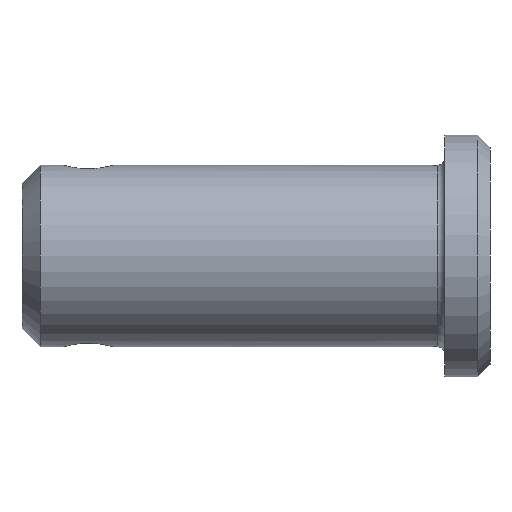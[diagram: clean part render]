
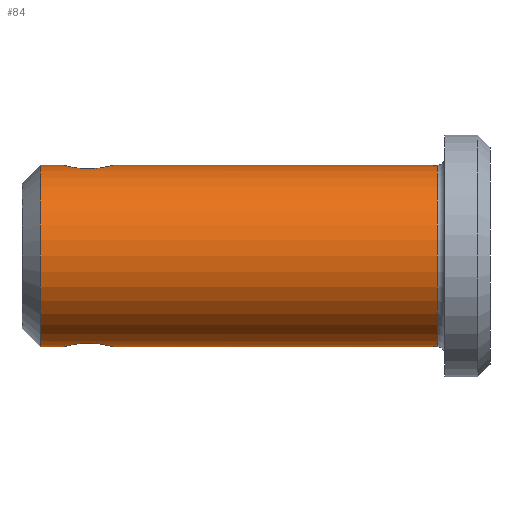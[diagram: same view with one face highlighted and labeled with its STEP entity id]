
A CAD part, front view. The second image highlights one B-rep face of the part: STEP entity #84.
In plain terms, the highlighted cylindrical face has radius 6 mm (diameter 12 mm), a partial arc.
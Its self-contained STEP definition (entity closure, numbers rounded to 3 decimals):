
#4 = VERTEX_POINT ( 'NONE', #257 ) ;
#5 = EDGE_CURVE ( 'NONE', #73, #49, #106, .T. ) ;
#9 = EDGE_CURVE ( 'NONE', #74, #73, #123, .T. ) ;
#15 = VERTEX_POINT ( 'NONE', #197 ) ;
#20 = VERTEX_POINT ( 'NONE', #195 ) ;
#22 = EDGE_CURVE ( 'NONE', #49, #20, #189, .T. ) ;
#26 = EDGE_CURVE ( 'NONE', #4, #46, #231, .T. ) ;
#46 = VERTEX_POINT ( 'NONE', #414 ) ;
#49 = VERTEX_POINT ( 'NONE', #482 ) ;
#53 = EDGE_CURVE ( 'NONE', #55, #74, #287, .T. ) ;
#55 = VERTEX_POINT ( 'NONE', #483 ) ;
#73 = VERTEX_POINT ( 'NONE', #407 ) ;
#74 = VERTEX_POINT ( 'NONE', #449 ) ;
#80 = EDGE_CURVE ( 'NONE', #4, #15, #442, .T. ) ;
#84 = ADVANCED_FACE ( 'NONE', ( #408 ), #404, .T. ) ;
#86 = ORIENTED_EDGE ( 'NONE', *, *, #5, .T. ) ;
#89 = ORIENTED_EDGE ( 'NONE', *, *, #80, .F. ) ;
#90 = ORIENTED_EDGE ( 'NONE', *, *, #9, .T. ) ;
#95 = EDGE_LOOP ( 'NONE', ( #264, #265, #90, #86, #96, #184, #89, #118 ) ) ;
#96 = ORIENTED_EDGE ( 'NONE', *, *, #22, .T. ) ;
#103 = CARTESIAN_POINT ( 'NONE',  ( -22.051, -0.416, 5.986 ) ) ;
#104 = CARTESIAN_POINT ( 'NONE',  ( -22.01, -0.211, 5.997 ) ) ;
#105 = CARTESIAN_POINT ( 'NONE',  ( -22., -0.106, 6. ) ) ;
#106 = B_SPLINE_CURVE_WITH_KNOTS ( 'NONE', 3,
 ( #196, #105, #104, #103, #148, #147, #146, #145, #144, #143, #142, #141, #140, #139, #138, #137, #136, #135, #134, #133, #132, #131, #130, #129, #128, #127, #126, #125 ),
 .UNSPECIFIED., .F., .F.,
 ( 4, 2, 2, 2, 2, 2, 2, 2, 2, 2, 2, 2, 2, 4 ),
 ( 0., 0., 0.001, 0.001, 0.001, 0.002, 0.003, 0.003, 0.003, 0.004, 0.004, 0.004, 0.005, 0.005 ),
 .UNSPECIFIED. ) ;
#118 = ORIENTED_EDGE ( 'NONE', *, *, #26, .T. ) ;
#119 = EDGE_CURVE ( 'NONE', #15, #20, #307, .T. ) ;
#122 = CARTESIAN_POINT ( 'NONE',  ( 0., 0., 6. ) ) ;
#123 = LINE ( 'NONE', #122, #204 ) ;
#125 = CARTESIAN_POINT ( 'NONE',  ( -25.2, 0., 6. ) ) ;
#126 = CARTESIAN_POINT ( 'NONE',  ( -25.2, -0.105, 6. ) ) ;
#127 = CARTESIAN_POINT ( 'NONE',  ( -25.19, -0.211, 5.997 ) ) ;
#128 = CARTESIAN_POINT ( 'NONE',  ( -25.148, -0.417, 5.986 ) ) ;
#129 = CARTESIAN_POINT ( 'NONE',  ( -25.118, -0.517, 5.978 ) ) ;
#130 = CARTESIAN_POINT ( 'NONE',  ( -25.038, -0.71, 5.959 ) ) ;
#131 = CARTESIAN_POINT ( 'NONE',  ( -24.987, -0.804, 5.947 ) ) ;
#132 = CARTESIAN_POINT ( 'NONE',  ( -24.872, -0.977, 5.921 ) ) ;
#133 = CARTESIAN_POINT ( 'NONE',  ( -24.806, -1.057, 5.907 ) ) ;
#134 = CARTESIAN_POINT ( 'NONE',  ( -24.584, -1.279, 5.864 ) ) ;
#135 = CARTESIAN_POINT ( 'NONE',  ( -24.408, -1.397, 5.836 ) ) ;
#136 = CARTESIAN_POINT ( 'NONE',  ( -24.116, -1.518, 5.805 ) ) ;
#137 = CARTESIAN_POINT ( 'NONE',  ( -24.016, -1.548, 5.797 ) ) ;
#138 = CARTESIAN_POINT ( 'NONE',  ( -23.811, -1.59, 5.786 ) ) ;
#139 = CARTESIAN_POINT ( 'NONE',  ( -23.704, -1.6, 5.783 ) ) ;
#140 = CARTESIAN_POINT ( 'NONE',  ( -23.39, -1.6, 5.783 ) ) ;
#141 = CARTESIAN_POINT ( 'NONE',  ( -23.178, -1.557, 5.795 ) ) ;
#142 = CARTESIAN_POINT ( 'NONE',  ( -22.794, -1.398, 5.836 ) ) ;
#143 = CARTESIAN_POINT ( 'NONE',  ( -22.616, -1.279, 5.864 ) ) ;
#144 = CARTESIAN_POINT ( 'NONE',  ( -22.396, -1.058, 5.906 ) ) ;
#145 = CARTESIAN_POINT ( 'NONE',  ( -22.328, -0.977, 5.921 ) ) ;
#146 = CARTESIAN_POINT ( 'NONE',  ( -22.212, -0.803, 5.947 ) ) ;
#147 = CARTESIAN_POINT ( 'NONE',  ( -22.163, -0.711, 5.958 ) ) ;
#148 = CARTESIAN_POINT ( 'NONE',  ( -22.082, -0.518, 5.978 ) ) ;
#167 = CARTESIAN_POINT ( 'NONE',  ( -22., 0., -6. ) ) ;
#168 = CARTESIAN_POINT ( 'NONE',  ( -22., -0.106, -6. ) ) ;
#169 = CARTESIAN_POINT ( 'NONE',  ( -22.01, -0.211, -5.997 ) ) ;
#184 = ORIENTED_EDGE ( 'NONE', *, *, #119, .F. ) ;
#188 = CARTESIAN_POINT ( 'NONE',  ( 0., 0., 6. ) ) ;
#189 = LINE ( 'NONE', #188, #206 ) ;
#193 = DIRECTION ( 'NONE',  ( -1., 0., 0. ) ) ;
#195 = CARTESIAN_POINT ( 'NONE',  ( -26.8, 0., 6. ) ) ;
#196 = CARTESIAN_POINT ( 'NONE',  ( -22., 0., 6. ) ) ;
#197 = CARTESIAN_POINT ( 'NONE',  ( -26.8, 0., -6. ) ) ;
#203 = DIRECTION ( 'NONE',  ( -1., 0., 0. ) ) ;
#204 = VECTOR ( 'NONE', #203, 1000. ) ;
#206 = VECTOR ( 'NONE', #193, 1000. ) ;
#211 = CARTESIAN_POINT ( 'NONE',  ( -25.158, -0.421, -5.988 ) ) ;
#212 = CARTESIAN_POINT ( 'NONE',  ( -25.2, -0.209, -6. ) ) ;
#213 = CARTESIAN_POINT ( 'NONE',  ( -25.2, 0., -6. ) ) ;
#224 = CARTESIAN_POINT ( 'NONE',  ( -24.576, -1.272, -5.864 ) ) ;
#225 = CARTESIAN_POINT ( 'NONE',  ( -24.658, -1.205, -5.878 ) ) ;
#226 = CARTESIAN_POINT ( 'NONE',  ( -24.805, -1.057, -5.907 ) ) ;
#227 = CARTESIAN_POINT ( 'NONE',  ( -24.871, -0.977, -5.921 ) ) ;
#228 = CARTESIAN_POINT ( 'NONE',  ( -24.988, -0.804, -5.947 ) ) ;
#229 = CARTESIAN_POINT ( 'NONE',  ( -25.038, -0.71, -5.959 ) ) ;
#231 = B_SPLINE_CURVE_WITH_KNOTS ( 'NONE', 3,
 ( #213, #212, #211, #229, #228, #227, #226, #225, #224, #283, #282, #281, #280, #279, #278, #277, #276, #275, #274, #273, #272, #271, #270, #169, #168, #167 ),
 .UNSPECIFIED., .F., .F.,
 ( 4, 2, 2, 2, 2, 2, 2, 2, 2, 2, 2, 2, 4 ),
 ( 0.005, 0.006, 0.006, 0.006, 0.007, 0.007, 0.008, 0.008, 0.008, 0.009, 0.009, 0.01, 0.01 ),
 .UNSPECIFIED. ) ;
#257 = CARTESIAN_POINT ( 'NONE',  ( -25.2, 0., -6. ) ) ;
#262 = EDGE_CURVE ( 'NONE', #55, #46, #360, .T. ) ;
#264 = ORIENTED_EDGE ( 'NONE', *, *, #262, .F. ) ;
#265 = ORIENTED_EDGE ( 'NONE', *, *, #53, .T. ) ;
#270 = CARTESIAN_POINT ( 'NONE',  ( -22.052, -0.417, -5.986 ) ) ;
#271 = CARTESIAN_POINT ( 'NONE',  ( -22.083, -0.519, -5.978 ) ) ;
#272 = CARTESIAN_POINT ( 'NONE',  ( -22.203, -0.808, -5.949 ) ) ;
#273 = CARTESIAN_POINT ( 'NONE',  ( -22.322, -0.985, -5.92 ) ) ;
#274 = CARTESIAN_POINT ( 'NONE',  ( -22.616, -1.279, -5.864 ) ) ;
#275 = CARTESIAN_POINT ( 'NONE',  ( -22.794, -1.398, -5.836 ) ) ;
#276 = CARTESIAN_POINT ( 'NONE',  ( -23.083, -1.518, -5.805 ) ) ;
#277 = CARTESIAN_POINT ( 'NONE',  ( -23.185, -1.549, -5.797 ) ) ;
#278 = CARTESIAN_POINT ( 'NONE',  ( -23.391, -1.59, -5.786 ) ) ;
#279 = CARTESIAN_POINT ( 'NONE',  ( -23.495, -1.6, -5.783 ) ) ;
#280 = CARTESIAN_POINT ( 'NONE',  ( -23.811, -1.6, -5.783 ) ) ;
#281 = CARTESIAN_POINT ( 'NONE',  ( -24.02, -1.558, -5.795 ) ) ;
#282 = CARTESIAN_POINT ( 'NONE',  ( -24.312, -1.437, -5.826 ) ) ;
#283 = CARTESIAN_POINT ( 'NONE',  ( -24.404, -1.387, -5.838 ) ) ;
#287 = CIRCLE ( 'NONE', #394, 6. ) ;
#307 = CIRCLE ( 'NONE', #492, 6. ) ;
#341 = DIRECTION ( 'NONE',  ( -1., 0., 0. ) ) ;
#342 = CARTESIAN_POINT ( 'NONE',  ( -0.5, 0., 0. ) ) ;
#358 = DIRECTION ( 'NONE',  ( -1., 0., 0. ) ) ;
#359 = VECTOR ( 'NONE', #358, 1000. ) ;
#360 = LINE ( 'NONE', #459, #359 ) ;
#394 = AXIS2_PLACEMENT_3D ( 'NONE', #342, #341, #421 ) ;
#400 = CARTESIAN_POINT ( 'NONE',  ( 0., 0., 0. ) ) ;
#404 = CYLINDRICAL_SURFACE ( 'NONE', #446, 6. ) ;
#407 = CARTESIAN_POINT ( 'NONE',  ( -22., 0., 6. ) ) ;
#408 = FACE_OUTER_BOUND ( 'NONE', #95, .T. ) ;
#414 = CARTESIAN_POINT ( 'NONE',  ( -22., 0., -6. ) ) ;
#421 = DIRECTION ( 'NONE',  ( 0., 0., -1. ) ) ;
#433 = DIRECTION ( 'NONE',  ( -1., 0., 0. ) ) ;
#434 = VECTOR ( 'NONE', #433, 1000. ) ;
#435 = DIRECTION ( 'NONE',  ( -1., 0., 0. ) ) ;
#441 = CARTESIAN_POINT ( 'NONE',  ( 0., 0., -6. ) ) ;
#442 = LINE ( 'NONE', #441, #434 ) ;
#445 = DIRECTION ( 'NONE',  ( 0., 0., 1. ) ) ;
#446 = AXIS2_PLACEMENT_3D ( 'NONE', #400, #435, #445 ) ;
#449 = CARTESIAN_POINT ( 'NONE',  ( -0.5, 0., 6. ) ) ;
#459 = CARTESIAN_POINT ( 'NONE',  ( 0., 0., -6. ) ) ;
#482 = CARTESIAN_POINT ( 'NONE',  ( -25.2, 0., 6. ) ) ;
#483 = CARTESIAN_POINT ( 'NONE',  ( -0.5, 0., -6. ) ) ;
#489 = DIRECTION ( 'NONE',  ( 0., 0., 1. ) ) ;
#490 = DIRECTION ( 'NONE',  ( -1., 0., 0. ) ) ;
#491 = CARTESIAN_POINT ( 'NONE',  ( -26.8, 0., 0. ) ) ;
#492 = AXIS2_PLACEMENT_3D ( 'NONE', #491, #490, #489 ) ;
